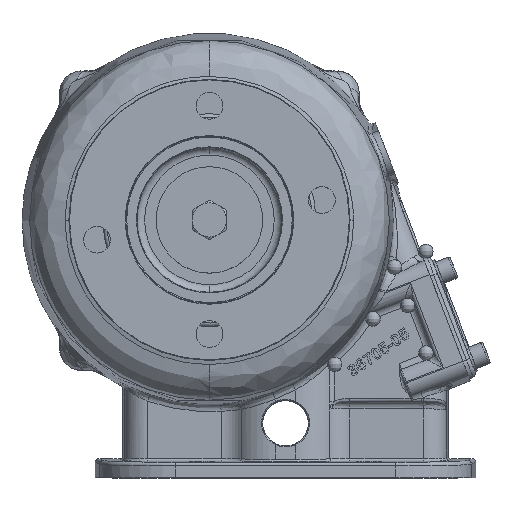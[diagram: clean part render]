
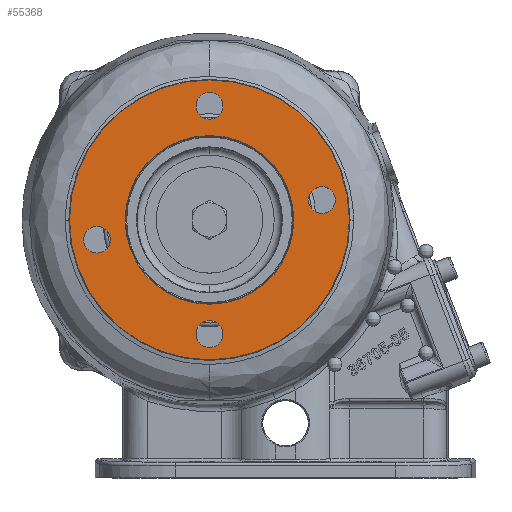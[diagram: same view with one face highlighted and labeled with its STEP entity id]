
A CAD part, top view. The second image highlights one B-rep face of the part: STEP entity #55368.
In plain terms, the highlighted planar face has unit normal (0, 0, 1) as drawn and (0, -1, 0) by its records, which use the part's own axes.
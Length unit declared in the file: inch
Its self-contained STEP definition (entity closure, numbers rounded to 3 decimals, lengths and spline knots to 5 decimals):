
#2304 = VERTEX_POINT ( 'NONE', #126609 ) ;
#3232 = CARTESIAN_POINT ( 'NONE',  ( 0., 0.05, 1.875 ) ) ;
#4349 = DIRECTION ( 'NONE',  ( 0., 1., 0. ) ) ;
#4621 = DIRECTION ( 'NONE',  ( 0., 1., 0. ) ) ;
#5794 = FACE_OUTER_BOUND ( 'NONE', #217448, .T. ) ;
#6470 = ORIENTED_EDGE ( 'NONE', *, *, #48891, .T. ) ;
#6663 = CIRCLE ( 'NONE', #75503, 0.22 ) ;
#7201 = DIRECTION ( 'NONE',  ( 0., 1., 0. ) ) ;
#8739 = VERTEX_POINT ( 'NONE', #73235 ) ;
#8952 = CARTESIAN_POINT ( 'NONE',  ( 0.22, 0.05, 1.875 ) ) ;
#12058 = CIRCLE ( 'NONE', #138883, 0.22 ) ;
#12834 = EDGE_CURVE ( 'NONE', #151147, #35476, #100632, .T. ) ;
#14238 = CARTESIAN_POINT ( 'NONE',  ( 1.3855, 0.05, 0. ) ) ;
#19104 = DIRECTION ( 'NONE',  ( -1., 0., 0. ) ) ;
#20564 = AXIS2_PLACEMENT_3D ( 'NONE', #3232, #4349, #211973 ) ;
#22840 = DIRECTION ( 'NONE',  ( -1., 0., 0. ) ) ;
#27613 = EDGE_CURVE ( 'NONE', #164730, #2304, #210225, .T. ) ;
#31348 = CARTESIAN_POINT ( 'NONE',  ( 0., 0.05, 1.875 ) ) ;
#31661 = CARTESIAN_POINT ( 'NONE',  ( 0., 0.05, 2.3 ) ) ;
#33238 = ORIENTED_EDGE ( 'NONE', *, *, #79345, .T. ) ;
#35476 = VERTEX_POINT ( 'NONE', #14238 ) ;
#39002 = EDGE_CURVE ( 'NONE', #35476, #151147, #73653, .T. ) ;
#41002 = FACE_BOUND ( 'NONE', #102339, .T. ) ;
#41335 = CARTESIAN_POINT ( 'NONE',  ( -2.06651, 0.05, -0.32559 ) ) ;
#44664 = EDGE_CURVE ( 'NONE', #60722, #214876, #71438, .T. ) ;
#45827 = AXIS2_PLACEMENT_3D ( 'NONE', #159836, #181332, #128018 ) ;
#48417 = AXIS2_PLACEMENT_3D ( 'NONE', #129746, #7201, #131969 ) ;
#48509 = EDGE_LOOP ( 'NONE', ( #208986, #122356 ) ) ;
#48891 = EDGE_CURVE ( 'NONE', #8739, #172137, #6663, .T. ) ;
#50303 = DIRECTION ( 'NONE',  ( -1., 0., 0. ) ) ;
#51351 = CARTESIAN_POINT ( 'NONE',  ( -0.22, 0.05, 1.875 ) ) ;
#52931 = CARTESIAN_POINT ( 'NONE',  ( 2.06651, 0.05, 0.32559 ) ) ;
#54357 = ORIENTED_EDGE ( 'NONE', *, *, #113944, .T. ) ;
#55368 = ADVANCED_FACE ( 'NONE', ( #5794, #75013, #148763, #41002, #216810, #197553 ), #94326, .F. ) ;
#56519 = AXIS2_PLACEMENT_3D ( 'NONE', #199334, #166453, #115360 ) ;
#56768 = EDGE_CURVE ( 'NONE', #57407, #209319, #155071, .T. ) ;
#57407 = VERTEX_POINT ( 'NONE', #161524 ) ;
#60722 = VERTEX_POINT ( 'NONE', #8952 ) ;
#60967 = VERTEX_POINT ( 'NONE', #61308 ) ;
#61228 = ORIENTED_EDGE ( 'NONE', *, *, #56768, .T. ) ;
#61308 = CARTESIAN_POINT ( 'NONE',  ( 0., 0.05, -2.3 ) ) ;
#61342 = DIRECTION ( 'NONE',  ( 0., 1., 0. ) ) ;
#61704 = CIRCLE ( 'NONE', #156194, 2.3 ) ;
#66190 = DIRECTION ( 'NONE',  ( 0., -1., 0. ) ) ;
#71438 = CIRCLE ( 'NONE', #20564, 0.22 ) ;
#71565 = AXIS2_PLACEMENT_3D ( 'NONE', #163179, #222038, #150612 ) ;
#72824 = CIRCLE ( 'NONE', #199666, 0.22 ) ;
#73235 = CARTESIAN_POINT ( 'NONE',  ( 1.62651, 0.05, 0.32559 ) ) ;
#73653 = CIRCLE ( 'NONE', #48417, 1.3855 ) ;
#74951 = CARTESIAN_POINT ( 'NONE',  ( 1.84651, 0.05, 0.32559 ) ) ;
#75013 = FACE_BOUND ( 'NONE', #48509, .T. ) ;
#75503 = AXIS2_PLACEMENT_3D ( 'NONE', #74951, #4621, #123817 ) ;
#79345 = EDGE_CURVE ( 'NONE', #2304, #164730, #136321, .T. ) ;
#82210 = ORIENTED_EDGE ( 'NONE', *, *, #44664, .T. ) ;
#84632 = EDGE_CURVE ( 'NONE', #60967, #217441, #180358, .T. ) ;
#84876 = DIRECTION ( 'NONE',  ( -1., 0., 0. ) ) ;
#86685 = EDGE_LOOP ( 'NONE', ( #6470, #99058 ) ) ;
#86731 = CARTESIAN_POINT ( 'NONE',  ( 0., 0.05, 0. ) ) ;
#89204 = EDGE_CURVE ( 'NONE', #209319, #57407, #212635, .T. ) ;
#93347 = AXIS2_PLACEMENT_3D ( 'NONE', #180567, #61342, #22840 ) ;
#93368 = CARTESIAN_POINT ( 'NONE',  ( -0.22, 0.05, -1.875 ) ) ;
#94326 = PLANE ( 'NONE',  #93347 ) ;
#99058 = ORIENTED_EDGE ( 'NONE', *, *, #105682, .T. ) ;
#100632 = CIRCLE ( 'NONE', #71565, 1.3855 ) ;
#102339 = EDGE_LOOP ( 'NONE', ( #150998, #61228 ) ) ;
#104249 = DIRECTION ( 'NONE',  ( 0., 1., 0. ) ) ;
#105682 = EDGE_CURVE ( 'NONE', #172137, #8739, #72824, .T. ) ;
#113944 = EDGE_CURVE ( 'NONE', #214876, #60722, #12058, .T. ) ;
#114485 = CARTESIAN_POINT ( 'NONE',  ( -1.3855, 0.05, 0. ) ) ;
#115360 = DIRECTION ( 'NONE',  ( -1., 0., 0. ) ) ;
#120878 = DIRECTION ( 'NONE',  ( 0., 1., 0. ) ) ;
#122356 = ORIENTED_EDGE ( 'NONE', *, *, #12834, .T. ) ;
#123000 = DIRECTION ( 'NONE',  ( 0., -1., 0. ) ) ;
#123817 = DIRECTION ( 'NONE',  ( -1., 0., 0. ) ) ;
#126609 = CARTESIAN_POINT ( 'NONE',  ( 0.22, 0.05, -1.875 ) ) ;
#128018 = DIRECTION ( 'NONE',  ( -1., 0., 0. ) ) ;
#129746 = CARTESIAN_POINT ( 'NONE',  ( 0., 0.05, 0. ) ) ;
#131969 = DIRECTION ( 'NONE',  ( -1., 0., 0. ) ) ;
#136321 = CIRCLE ( 'NONE', #56519, 0.22 ) ;
#138883 = AXIS2_PLACEMENT_3D ( 'NONE', #31348, #214378, #169798 ) ;
#148763 = FACE_BOUND ( 'NONE', #86685, .T. ) ;
#150612 = DIRECTION ( 'NONE',  ( -1., 0., 0. ) ) ;
#150998 = ORIENTED_EDGE ( 'NONE', *, *, #89204, .T. ) ;
#151147 = VERTEX_POINT ( 'NONE', #114485 ) ;
#152269 = ORIENTED_EDGE ( 'NONE', *, *, #84632, .T. ) ;
#153560 = EDGE_LOOP ( 'NONE', ( #166904, #33238 ) ) ;
#155071 = CIRCLE ( 'NONE', #184039, 0.22 ) ;
#156194 = AXIS2_PLACEMENT_3D ( 'NONE', #222779, #66190, #50303 ) ;
#159836 = CARTESIAN_POINT ( 'NONE',  ( -1.84651, 0.05, -0.32559 ) ) ;
#161524 = CARTESIAN_POINT ( 'NONE',  ( -1.62651, 0.05, -0.32559 ) ) ;
#163179 = CARTESIAN_POINT ( 'NONE',  ( 0., 0.05, 0. ) ) ;
#164730 = VERTEX_POINT ( 'NONE', #93368 ) ;
#166453 = DIRECTION ( 'NONE',  ( 0., 1., 0. ) ) ;
#166904 = ORIENTED_EDGE ( 'NONE', *, *, #27613, .T. ) ;
#169798 = DIRECTION ( 'NONE',  ( -1., 0., 0. ) ) ;
#172137 = VERTEX_POINT ( 'NONE', #52931 ) ;
#173360 = CARTESIAN_POINT ( 'NONE',  ( 0., 0.05, -1.875 ) ) ;
#174096 = DIRECTION ( 'NONE',  ( -1., 0., 0. ) ) ;
#180358 = CIRCLE ( 'NONE', #220174, 2.3 ) ;
#180567 = CARTESIAN_POINT ( 'NONE',  ( 2.31, 0.05, 0. ) ) ;
#181332 = DIRECTION ( 'NONE',  ( 0., 1., 0. ) ) ;
#184039 = AXIS2_PLACEMENT_3D ( 'NONE', #189384, #104249, #19104 ) ;
#189384 = CARTESIAN_POINT ( 'NONE',  ( -1.84651, 0.05, -0.32559 ) ) ;
#190070 = DIRECTION ( 'NONE',  ( -1., 0., 0. ) ) ;
#192723 = ORIENTED_EDGE ( 'NONE', *, *, #210605, .T. ) ;
#196054 = EDGE_LOOP ( 'NONE', ( #54357, #82210 ) ) ;
#197553 = FACE_BOUND ( 'NONE', #153560, .T. ) ;
#199334 = CARTESIAN_POINT ( 'NONE',  ( 0., 0.05, -1.875 ) ) ;
#199666 = AXIS2_PLACEMENT_3D ( 'NONE', #207106, #120878, #190070 ) ;
#206293 = DIRECTION ( 'NONE',  ( 0., 1., 0. ) ) ;
#207106 = CARTESIAN_POINT ( 'NONE',  ( 1.84651, 0.05, 0.32559 ) ) ;
#208986 = ORIENTED_EDGE ( 'NONE', *, *, #39002, .T. ) ;
#209319 = VERTEX_POINT ( 'NONE', #41335 ) ;
#210225 = CIRCLE ( 'NONE', #217511, 0.22 ) ;
#210605 = EDGE_CURVE ( 'NONE', #217441, #60967, #61704, .T. ) ;
#211973 = DIRECTION ( 'NONE',  ( -1., 0., 0. ) ) ;
#212635 = CIRCLE ( 'NONE', #45827, 0.22 ) ;
#214378 = DIRECTION ( 'NONE',  ( 0., 1., 0. ) ) ;
#214876 = VERTEX_POINT ( 'NONE', #51351 ) ;
#216810 = FACE_BOUND ( 'NONE', #196054, .T. ) ;
#217441 = VERTEX_POINT ( 'NONE', #31661 ) ;
#217448 = EDGE_LOOP ( 'NONE', ( #192723, #152269 ) ) ;
#217511 = AXIS2_PLACEMENT_3D ( 'NONE', #173360, #206293, #84876 ) ;
#220174 = AXIS2_PLACEMENT_3D ( 'NONE', #86731, #123000, #174096 ) ;
#222038 = DIRECTION ( 'NONE',  ( 0., 1., 0. ) ) ;
#222779 = CARTESIAN_POINT ( 'NONE',  ( 0., 0.05, 0. ) ) ;
